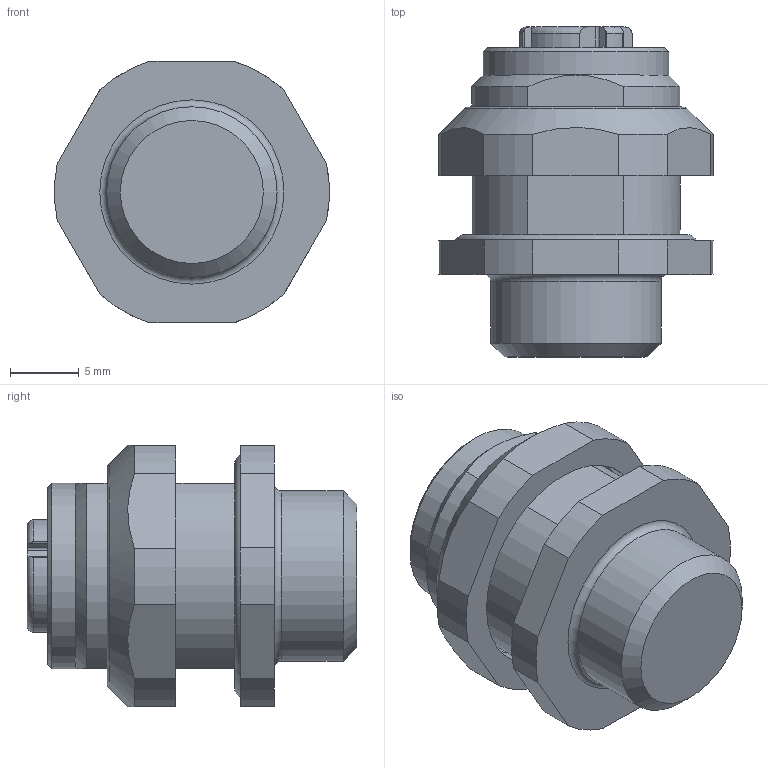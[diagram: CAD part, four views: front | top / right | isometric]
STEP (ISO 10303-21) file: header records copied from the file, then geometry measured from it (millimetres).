
FILE_DESCRIPTION(/* description */ (''),/* implementation_level */ '2;1');
FILE_NAME(/* name */ 'L:\CAD Inventor\Workspace\Catalogs\CATALOG-TURCK CONNECTORS\FKFDD 44.stp',/* time_stamp */ '2021-07-12T10:00:25-05:00',/* author */ ('RSwans'),/* organization */ (''),/* preprocessor_version */ 'ST-DEVELOPER v16.5',/* originating_system */ 'Autodesk Inventor 2017',/* authorisation */ '');
FILE_SCHEMA (('AUTOMOTIVE_DESIGN { 1 0 10303 214 3 1 1 }'));
Length unit declared in the file: millimetre
Products named in the file (1): Part1
Bounding box: 19.98 x 24 x 19.01 mm (x, y, z)
Volume: 87.4 mm3; surface area: 3570.6 mm2
Topology: 11 solids, 13 shells, 319 faces, 978 edges, 633 vertices
Faces by surface type: cylinder 188, plane 96, torus 20, cone 15
Full cylindrical faces by diameter (mm): 1.3 x4, 1.6 x4, 1.7 x8, 8 x1, 9 x1, 9.45 x1, 9.6 x1, 11.1 x1, 12.3 x1, 12.4 x1, 13.5 x1, 15.8 x1
Entity records: 11206 total; most frequent: DIRECTION 2056, CARTESIAN_POINT 2024, ORIENTED_EDGE 1786, EDGE_CURVE 891, AXIS2_PLACEMENT_3D 877, VERTEX_POINT 595, CIRCLE 551, EDGE_LOOP 390
